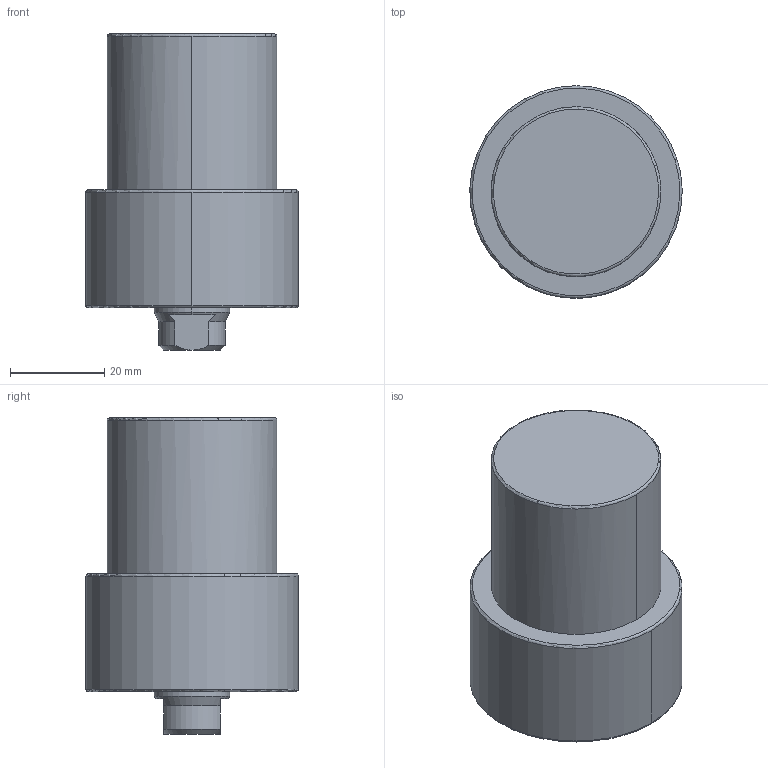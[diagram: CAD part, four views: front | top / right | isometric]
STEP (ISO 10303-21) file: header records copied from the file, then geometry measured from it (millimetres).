
FILE_DESCRIPTION((' '),'2;1');
FILE_NAME( 'TLLU-036GA-025.STEP.stp', '2025-10-24T16:37:03', (' '), ('--- Datakit www.datakit.com---'), ' Datakit CrossCadWare V2024.1 Dec 21 2023', 'Mastercam 2025', ' ');
FILE_SCHEMA(('AUTOMOTIVE_DESIGN { 1 0 10303 214 1 1 1 1 }'));
Length unit declared in the file: millimetre
Products named in the file (1): TLLU-036GA-025
Bounding box: 44.99 x 45 x 67 mm (x, y, z)
Volume: 73756.6 mm3; surface area: 11564 mm2
Topology: 1 solids, 1 shells, 62 faces, 172 edges, 111 vertices
Faces by surface type: cone 24, cylinder 22, plane 10, torus 6
Entity records: 2034 total; most frequent: DIRECTION 386, CARTESIAN_POINT 380, ORIENTED_EDGE 324, AXIS2_PLACEMENT_3D 169, EDGE_CURVE 162, VERTEX_POINT 111, CIRCLE 106, EDGE_LOOP 71
